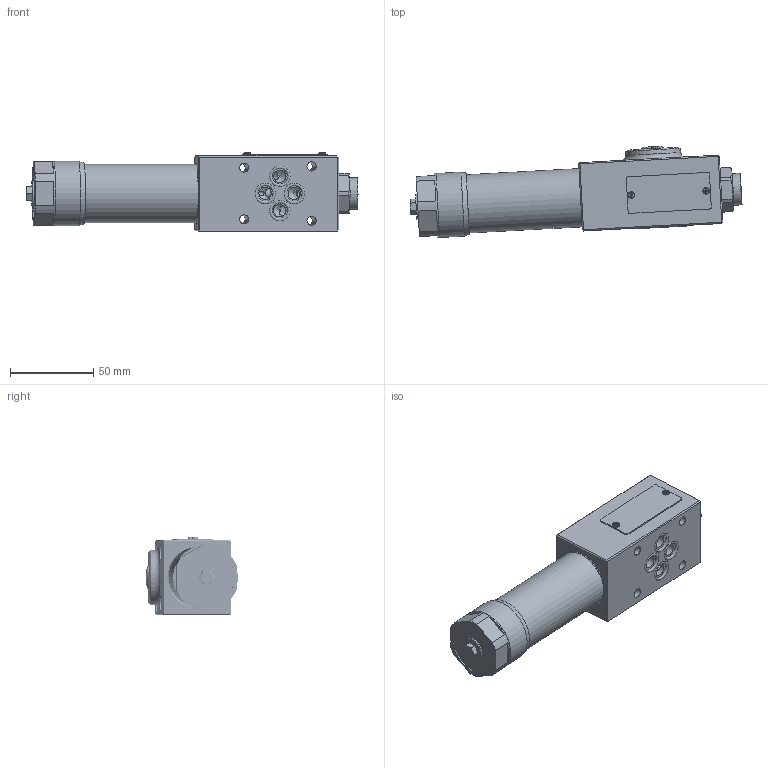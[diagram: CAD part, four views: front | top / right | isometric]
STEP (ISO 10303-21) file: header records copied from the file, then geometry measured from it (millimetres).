
FILE_DESCRIPTION(/* description */ (''),/* implementation_level */ '2;1');
FILE_NAME(/* name */ 'DZ6DP2-5XJ.stp',/* time_stamp */ '2024-09-24T18:02:11+08:00',/* author */ (''),/* organization */ (''),/* preprocessor_version */ 'ST-DEVELOPER v16.7',/* originating_system */ 'SIEMENS PLM Software NX 12.0',/* authorisation */ '');
FILE_SCHEMA (('AUTOMOTIVE_DESIGN { 1 0 10303 214 3 1 1 1 }'));
Products named in the file (1): DZ6DP2-5XJ
Bounding box: 199.2 x 54.94 x 46.8 mm (x, y, z)
Volume: 92712.6 mm3; surface area: 98430.7 mm2
Topology: 34 solids, 36 shells, 939 faces, 2368 edges, 1509 vertices
Faces by surface type: cylinder 324, plane 301, cone 131, bspline 92, torus 80, sphere 9, extrusion 2
Full cylindrical faces by diameter (mm): 0.8 x3, 1.5 x4, 1.8 x4, 1.9 x2, 2.5 x5, 3 x1, 3.3 x35, 4 x2, 4.2 x9, 4.4 x1, 5.3 x1, 5.5 x4, 6 x3, 7 x1, 7.5 x6, 8.2 x1, 8.3 x2, 9 x9, 9.2 x1, 9.4 x4, 9.5 x1, 10 x8, 10.5 x1, 10.8 x1, 11.5 x9, 12 x6, 12.1 x2, 12.2 x4, 12.3 x2, 13.8 x1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
Entity records: 88550 total; most frequent: CARTESIAN_POINT 70259, ORIENTED_EDGE 3562, DIRECTION 3332, EDGE_CURVE 1781, AXIS2_PLACEMENT_3D 1435, VERTEX_POINT 1270, EDGE_LOOP 1203, ADVANCED_FACE 870
